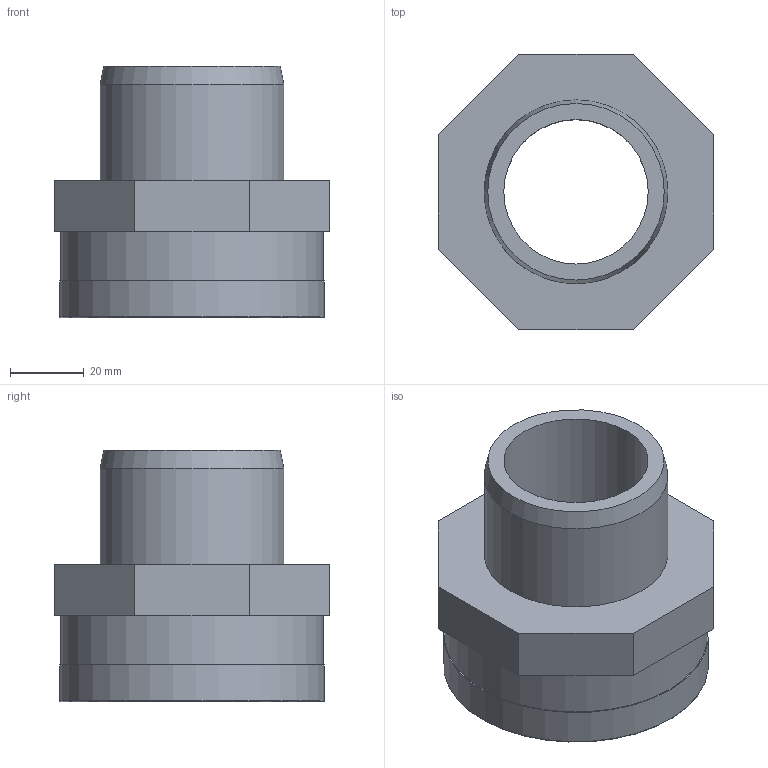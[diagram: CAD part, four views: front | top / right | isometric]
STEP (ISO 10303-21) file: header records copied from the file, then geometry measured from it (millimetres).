
FILE_DESCRIPTION(/* description */ (''),/* implementation_level */ '2;1');
FILE_NAME(/* name */ 'C:\Users\POLYPIPE\Desktop\DATASET INVENTOR\LIBRERIA EFFAST\RACCORDI 3DxWEB\RGR\3D_RGRAFR\3D_RGRAFR050G.stp',/* time_stamp */ '2018-01-19T17:31:44+01:00',/* author */ ('POLYPIPE'),/* organization */ (''),/* preprocessor_version */ 'ST-DEVELOPER v16.1',/* originating_system */ 'Autodesk Inventor 2016',/* authorisation */ '');
FILE_SCHEMA (('CONFIG_CONTROL_DESIGN'));
Length unit declared in the file: centimetre
Products named in the file (1): 3D_RGRAFR050G
Bounding box: 75 x 75 x 68.4 mm (x, y, z)
Volume: 94644.2 mm3; surface area: 34032.2 mm2
Topology: 1 solids, 1 shells, 29 faces, 64 edges, 42 vertices
Faces by surface type: plane 16, cylinder 6, bspline 5, cone 1, torus 1
Full cylindrical faces by diameter (mm): 39.3 x1, 50 x1, 56.656 x1, 63 x1, 71.5 x1, 72 x1
Entity records: 5266 total; most frequent: CARTESIAN_POINT 4616, DIRECTION 109, ORIENTED_EDGE 108, EDGE_CURVE 54, EDGE_LOOP 44, AXIS2_PLACEMENT_3D 41, VERTEX_POINT 40, STYLED_ITEM 30
